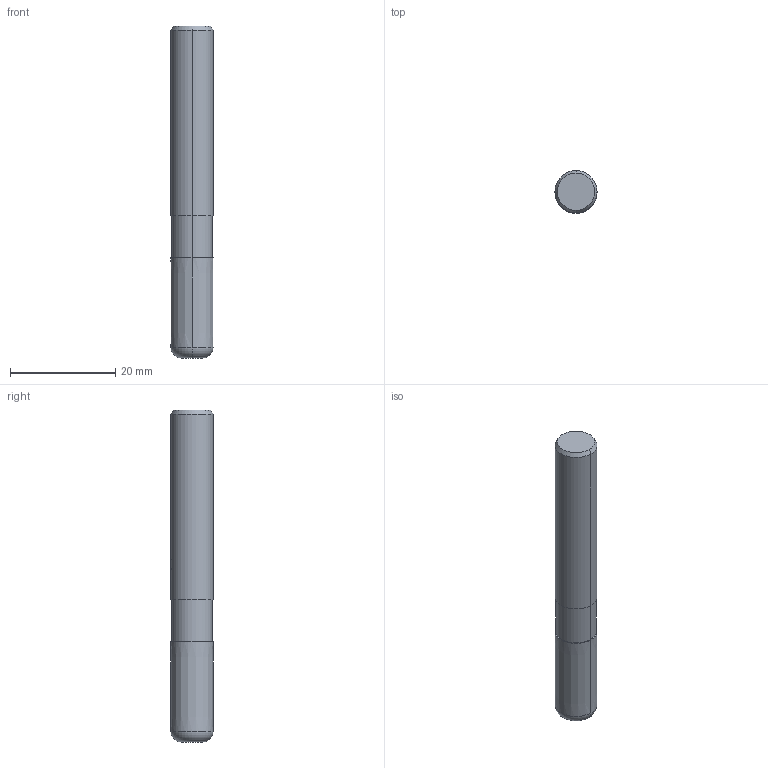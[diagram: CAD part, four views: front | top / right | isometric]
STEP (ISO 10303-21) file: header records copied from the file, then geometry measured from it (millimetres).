
FILE_DESCRIPTION(('no description'),'unknown implementation level');
FILE_NAME('solidsBFmLo6FI7dH7GwLKWCEupwz_Yw_1.STP',' ',('CIMSOURCE GmbH'),('CADClick - KiM GmbH - www.kimweb.de'),'unknown preprocess','ACIS','unknown authorization');
FILE_SCHEMA(('automotive_design'));
Length unit declared in the file: millimetre
Products named in the file (2): 1; 2
Bounding box: 8 x 8 x 63 mm (x, y, z)
Volume: 3113.1 mm3; surface area: 1745.9 mm2
Topology: 2 solids, 2 shells, 29 faces, 71 edges, 46 vertices
Faces by surface type: plane 12, cylinder 11, cone 4, torus 2
Entity records: 1945 total; most frequent: CARTESIAN_POINT 379, DIRECTION 152, STYLED_ITEM 148, PRESENTATION_STYLE_ASSIGNMENT 148, COLOUR_RGB 148, ORIENTED_EDGE 142, EDGE_CURVE 71, CURVE_STYLE 71
